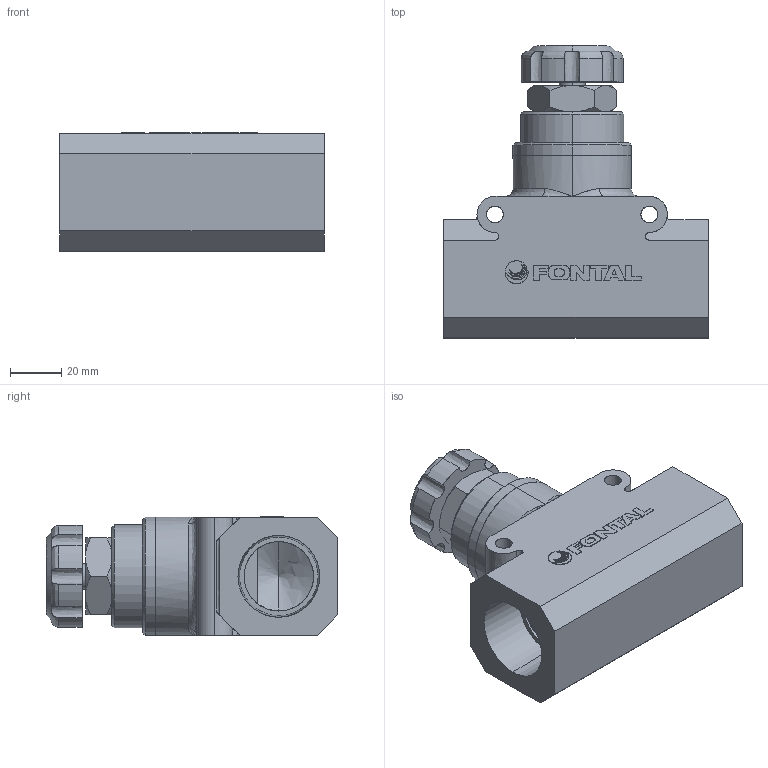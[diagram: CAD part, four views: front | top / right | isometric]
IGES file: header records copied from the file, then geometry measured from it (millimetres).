
Start section: SolidWorks IGES file using analytic representation for surfaces
Global section: file name: D:\Custom\3D繪製\Z-H\20\SP-20-8.IGS,1; native system: 5HSolidWorks 2014; preprocessor: SolidWorks 2014; author: Chieh_Lu; date: 160115.042143; units: millimetre
Bounding box: 103 x 113.5 x 46.25 mm (x, y, z)
Surface area: 46083.2 mm2 (no closed solid volume)
Topology: 0 solids, 0 shells, 220 faces, 3377 edges, 3371 vertices
Faces by surface type: bspline 126, revolution 94
